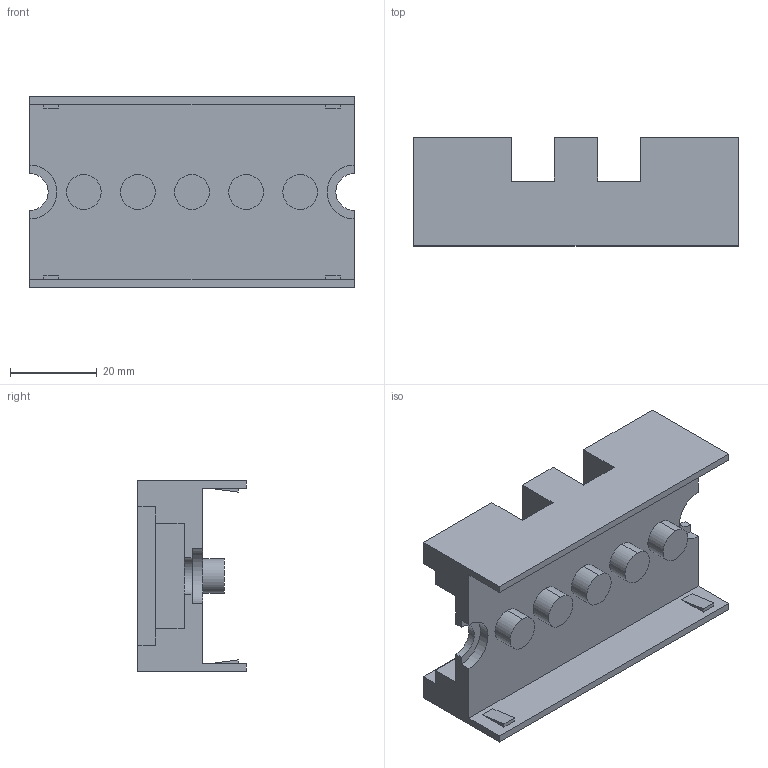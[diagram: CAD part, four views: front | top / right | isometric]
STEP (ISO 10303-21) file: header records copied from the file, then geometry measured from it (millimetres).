
FILE_DESCRIPTION (( 'STEP AP214' ), '1' );
FILE_NAME ('YIS40-10-02-075 Èçîëÿòîð øèíîäåðæàòåëÿ 75-10-2.STEP', '2025-08-19T12:59:20', ( '' ), ( '' ), 'SwSTEP 2.0', 'SolidWorks 2023', '' );
FILE_SCHEMA (( 'AUTOMOTIVE_DESIGN' ));
Length unit declared in the file: millimetre
Products named in the file (1): YIS40-10-02-075 Изолятор шинодержателя 75-10-2
Bounding box: 75 x 25 x 44 mm (x, y, z)
Volume: 35154.4 mm3; surface area: 15946.9 mm2
Topology: 1 solids, 1 shells, 90 faces, 234 edges, 156 vertices
Faces by surface type: plane 70, cylinder 20
Entity records: 2761 total; most frequent: CARTESIAN_POINT 481, ORIENTED_EDGE 468, DIRECTION 456, EDGE_CURVE 234, LINE 194, VECTOR 194, VERTEX_POINT 156, AXIS2_PLACEMENT_3D 131
